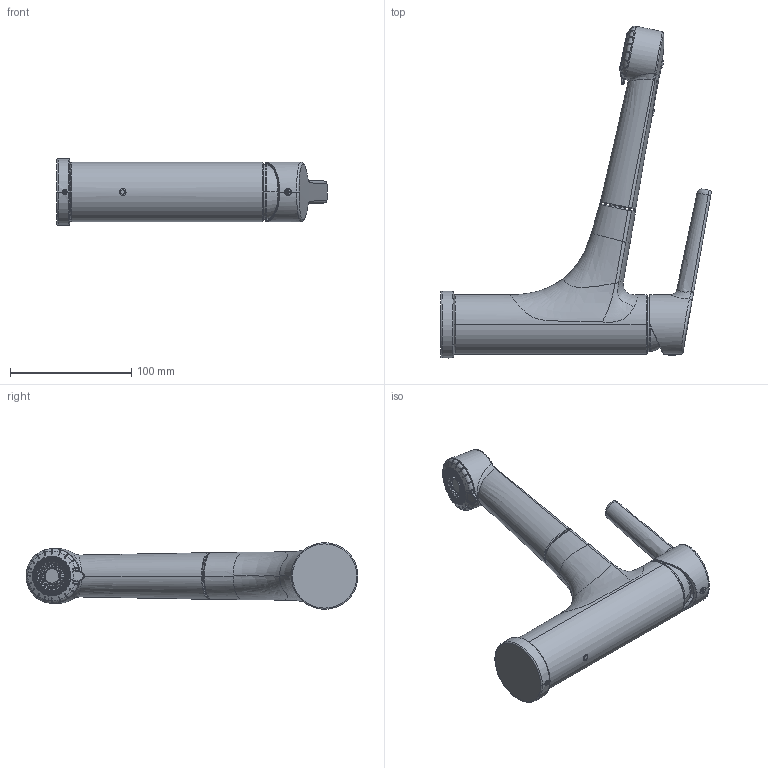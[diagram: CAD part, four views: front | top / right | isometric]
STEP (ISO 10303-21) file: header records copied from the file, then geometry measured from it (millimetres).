
FILE_DESCRIPTION((''),'2;1');
FILE_NAME('10171053','2016-07-21T',('peig'),(''),'PRO/ENGINEER BY PARAMETRIC TECHNOLOGY CORPORATION, 2014000','PRO/ENGINEER BY PARAMETRIC TECHNOLOGY CORPORATION, 2014000','');
FILE_SCHEMA(('CONFIG_CONTROL_DESIGN'));
Products named in the file (1): 10171053
Bounding box: 222.6 x 273.36 x 55 mm (x, y, z)
Volume: 603832.8 mm3; surface area: 81547.4 mm2
Topology: 1 solids, 1 shells, 1094 faces, 3028 edges, 1961 vertices
Faces by surface type: bspline 448, plane 249, cylinder 154, torus 150, cone 63, sphere 30
Entity records: 82315 total; most frequent: CARTESIAN_POINT 58132, ORIENTED_EDGE 6032, DIRECTION 3663, EDGE_CURVE 3016, VERTEX_POINT 1961, AXIS2_PLACEMENT_3D 1559, B_SPLINE_CURVE_WITH_KNOTS 1558, EDGE_LOOP 1185
